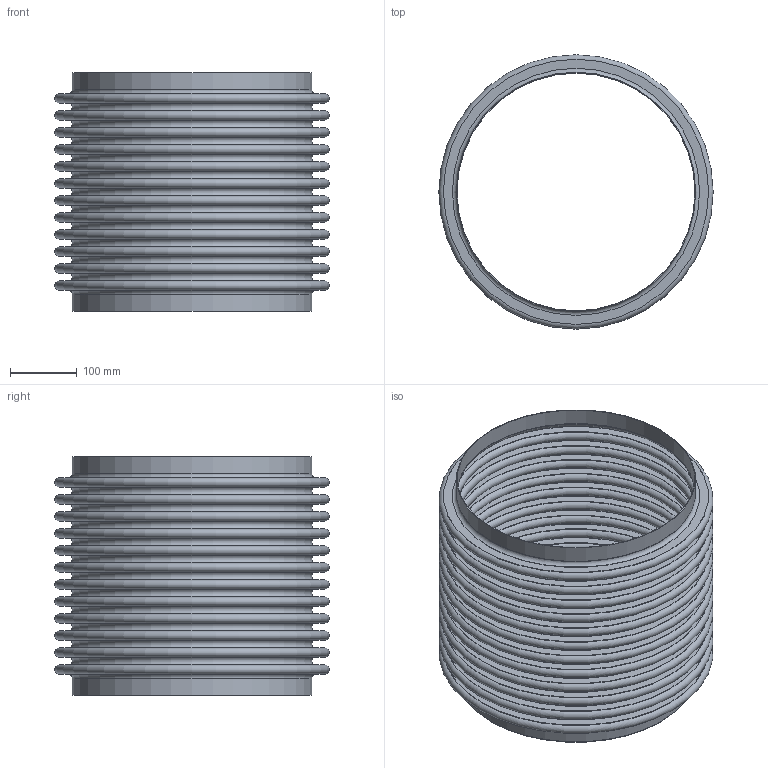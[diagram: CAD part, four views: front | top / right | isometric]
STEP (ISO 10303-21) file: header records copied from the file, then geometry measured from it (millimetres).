
FILE_DESCRIPTION(/* description */ (''),/* implementation_level */ '2;1');
FILE_NAME(/* name */ 'US-14-12-85L.stp',/* time_stamp */ '2026-07-21T11:15:28-05:00',/* author */ ('linda'),/* organization */ (''),/* preprocessor_version */ 'ST-DEVELOPER v20.1',/* originating_system */ 'Autodesk Inventor 2026',/* authorisation */ '');
FILE_SCHEMA (('AUTOMOTIVE_DESIGN { 1 0 10303 214 3 1 1 }'));
Length unit declared in the file: inch
Products named in the file (1): Part3
Bounding box: 409.57 x 409.57 x 355.6 mm (x, y, z)
Volume: 930972.3 mm3; surface area: 2042392.2 mm2
Topology: 3 solids, 3 shells, 108 faces, 162 edges, 109 vertices
Faces by surface type: plane 54, torus 50, cylinder 4
Full cylindrical faces by diameter (mm): 355.6 x2, 357.429 x2
Entity records: 2667 total; most frequent: DIRECTION 538, CARTESIAN_POINT 380, ORIENTED_EDGE 324, AXIS2_PLACEMENT_3D 267, EDGE_LOOP 162, EDGE_CURVE 162, CIRCLE 158, STYLED_ITEM 111
